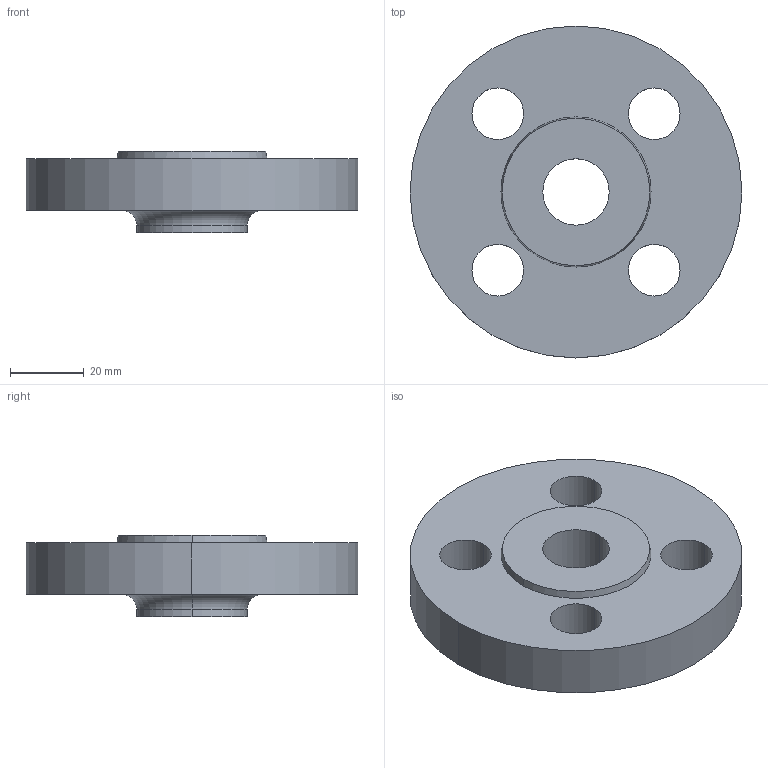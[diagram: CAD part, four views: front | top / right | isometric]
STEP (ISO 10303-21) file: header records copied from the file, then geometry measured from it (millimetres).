
FILE_DESCRIPTION (( 'STEP AP214' ), '1' );
FILE_NAME ('PN40 DN10 Type 12 - Type B Face.STEP', '2018-12-29T04:02:12', ( '' ), ( '' ), 'SwSTEP 2.0', 'SolidWorks 2019', '' );
FILE_SCHEMA (( 'AUTOMOTIVE_DESIGN' ));
Length unit declared in the file: millimetre
Products named in the file (1): PN40 DN10 Type 12 - Type B Face
Bounding box: 90 x 90 x 22 mm (x, y, z)
Volume: 81987.2 mm3; surface area: 19272 mm2
Topology: 1 solids, 1 shells, 22 faces, 52 edges, 34 vertices
Faces by surface type: cylinder 14, plane 4, torus 2, cone 2
Entity records: 710 total; most frequent: DIRECTION 134, CARTESIAN_POINT 109, ORIENTED_EDGE 104, AXIS2_PLACEMENT_3D 59, EDGE_CURVE 52, CIRCLE 36, EDGE_LOOP 34, VERTEX_POINT 34
